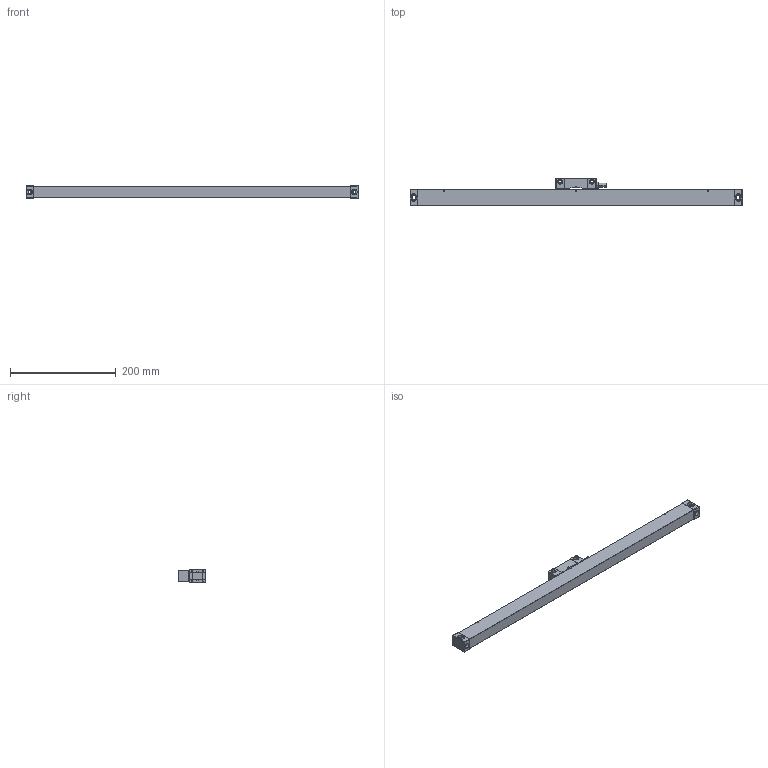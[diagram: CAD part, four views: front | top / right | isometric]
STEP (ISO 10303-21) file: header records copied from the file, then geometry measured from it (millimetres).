
FILE_DESCRIPTION (( 'STEP AP214' ), '1' );
FILE_NAME ('JCXE500-W5.step', '2023-05-18T05:34:01', ( 'Windows 蚚誧' ), ( '' ), 'SwSTEP 2.0', 'SolidWorks 2016', '' );
FILE_SCHEMA (( 'AUTOMOTIVE_DESIGN' ));
Length unit declared in the file: millimetre
Products named in the file (1): JCXE500-W5
Bounding box: 628 x 52.5 x 23.5 mm (x, y, z)
Volume: 430526.9 mm3; surface area: 80744.2 mm2
Topology: 2 solids, 2 shells, 307 faces, 756 edges, 466 vertices
Faces by surface type: cylinder 138, plane 134, torus 22, sphere 11, cone 2
Entity records: 9260 total; most frequent: CARTESIAN_POINT 1860, DIRECTION 1588, ORIENTED_EDGE 1486, EDGE_CURVE 743, AXIS2_PLACEMENT_3D 596, VERTEX_POINT 464, LINE 396, VECTOR 396
